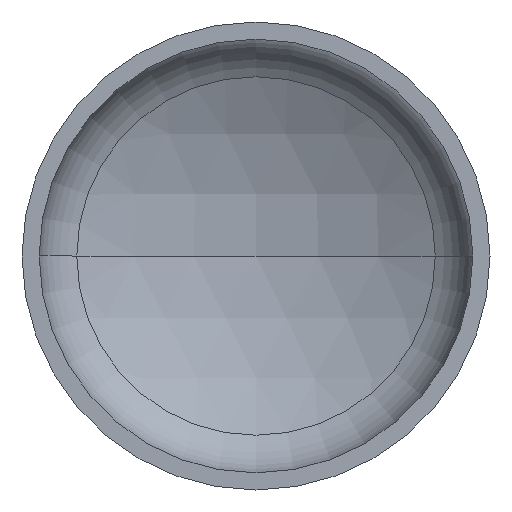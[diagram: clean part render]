
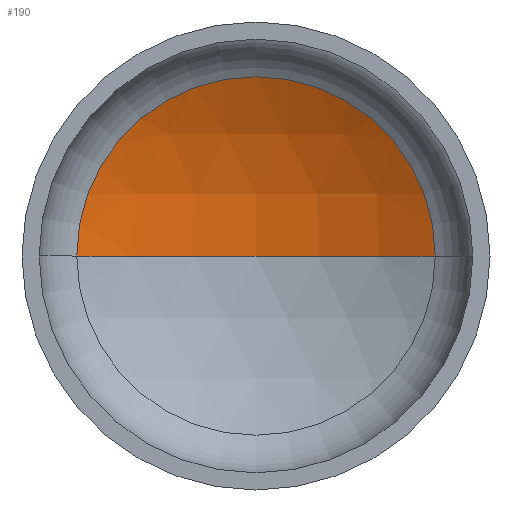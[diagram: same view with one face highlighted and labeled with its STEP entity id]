
A CAD part, front view. The second image highlights one B-rep face of the part: STEP entity #190.
In plain terms, the highlighted spherical face has radius 960 mm.
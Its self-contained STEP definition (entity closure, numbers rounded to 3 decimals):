
#8 = DIRECTION ( 'NONE',  ( 0., 0., -1. ) ) ;
#18 = EDGE_LOOP ( 'NONE', ( #68, #52, #151 ) ) ;
#20 = AXIS2_PLACEMENT_3D ( 'NONE', #180, #355, #138 ) ;
#25 = AXIS2_PLACEMENT_3D ( 'NONE', #172, #173, #146 ) ;
#38 = AXIS2_PLACEMENT_3D ( 'NONE', #42, #273, #275 ) ;
#39 = VERTEX_POINT ( 'NONE', #247 ) ;
#42 = CARTESIAN_POINT ( 'NONE',  ( 0., -540.429, 0. ) ) ;
#47 = AXIS2_PLACEMENT_3D ( 'NONE', #272, #8, #356 ) ;
#52 = ORIENTED_EDGE ( 'NONE', *, *, #340, .T. ) ;
#58 = VERTEX_POINT ( 'NONE', #249 ) ;
#68 = ORIENTED_EDGE ( 'NONE', *, *, #342, .F. ) ;
#99 = VERTEX_POINT ( 'NONE', #314 ) ;
#138 = DIRECTION ( 'NONE',  ( 1., 0., 0. ) ) ;
#146 = DIRECTION ( 'NONE',  ( 1., 0., 0. ) ) ;
#151 = ORIENTED_EDGE ( 'NONE', *, *, #337, .T. ) ;
#156 = CIRCLE ( 'NONE', #20, 960. ) ;
#172 = CARTESIAN_POINT ( 'NONE',  ( 0., 302.425, 0. ) ) ;
#173 = DIRECTION ( 'NONE',  ( 0., -1., 0. ) ) ;
#180 = CARTESIAN_POINT ( 'NONE',  ( 0., -540.429, 0. ) ) ;
#190 = ADVANCED_FACE ( 'NONE', ( #287 ), #235, .F. ) ;
#209 = CIRCLE ( 'NONE', #38, 960. ) ;
#235 = SPHERICAL_SURFACE ( 'NONE', #47, 960. ) ;
#247 = CARTESIAN_POINT ( 'NONE',  ( 0., 419.571, 0. ) ) ;
#249 = CARTESIAN_POINT ( 'NONE',  ( 459.561, 302.425, 0. ) ) ;
#272 = CARTESIAN_POINT ( 'NONE',  ( 0., -540.429, 0. ) ) ;
#273 = DIRECTION ( 'NONE',  ( 0., 0., -1. ) ) ;
#275 = DIRECTION ( 'NONE',  ( -1., 0., 0. ) ) ;
#287 = FACE_OUTER_BOUND ( 'NONE', #18, .T. ) ;
#314 = CARTESIAN_POINT ( 'NONE',  ( -459.561, 302.425, 0. ) ) ;
#337 = EDGE_CURVE ( 'NONE', #58, #99, #394, .T. ) ;
#340 = EDGE_CURVE ( 'NONE', #39, #58, #209, .T. ) ;
#342 = EDGE_CURVE ( 'NONE', #39, #99, #156, .T. ) ;
#355 = DIRECTION ( 'NONE',  ( 0., 0., 1. ) ) ;
#356 = DIRECTION ( 'NONE',  ( -1., 0., 0. ) ) ;
#394 = CIRCLE ( 'NONE', #25, 459.561 ) ;
